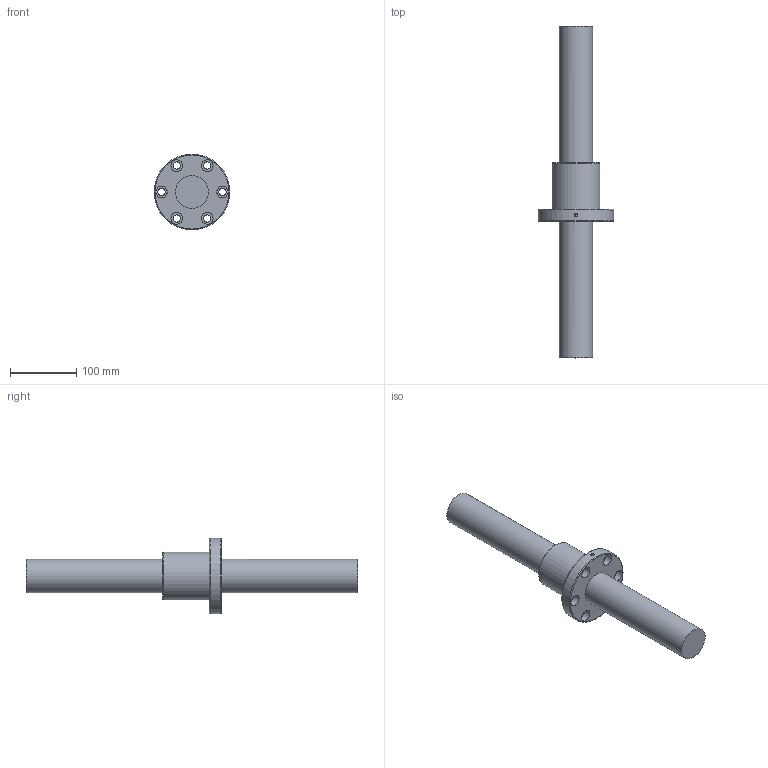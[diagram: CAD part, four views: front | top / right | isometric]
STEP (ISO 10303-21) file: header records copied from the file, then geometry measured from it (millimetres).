
FILE_DESCRIPTION (( 'STEP AP203' ), '1' );
FILE_NAME ('SFNI5010.STEP', '2023-06-06T05:20:09', ( '' ), ( '' ), 'SwSTEP 2.0', 'SolidWorks 2022', '' );
FILE_SCHEMA (( 'CONFIG_CONTROL_DESIGN' ));
Length unit declared in the file: millimetre
Products named in the file (1): SFNI5010
Bounding box: 114 x 500 x 114 mm (x, y, z)
Volume: 1257858.4 mm3; surface area: 138941.8 mm2
Topology: 2 solids, 2 shells, 34 faces, 66 edges, 44 vertices
Faces by surface type: cylinder 19, plane 12, torus 3
Full cylindrical faces by diameter (mm): 4 x1, 5 x1, 11 x6, 17.5 x6, 50 x2, 72 x1, 114 x1
Entity records: 1131 total; most frequent: CARTESIAN_POINT 397, DIRECTION 145, ORIENTED_EDGE 82, EDGE_LOOP 80, AXIS2_PLACEMENT_3D 72, FACE_OUTER_BOUND 55, EDGE_CURVE 41, VERTEX_POINT 41
